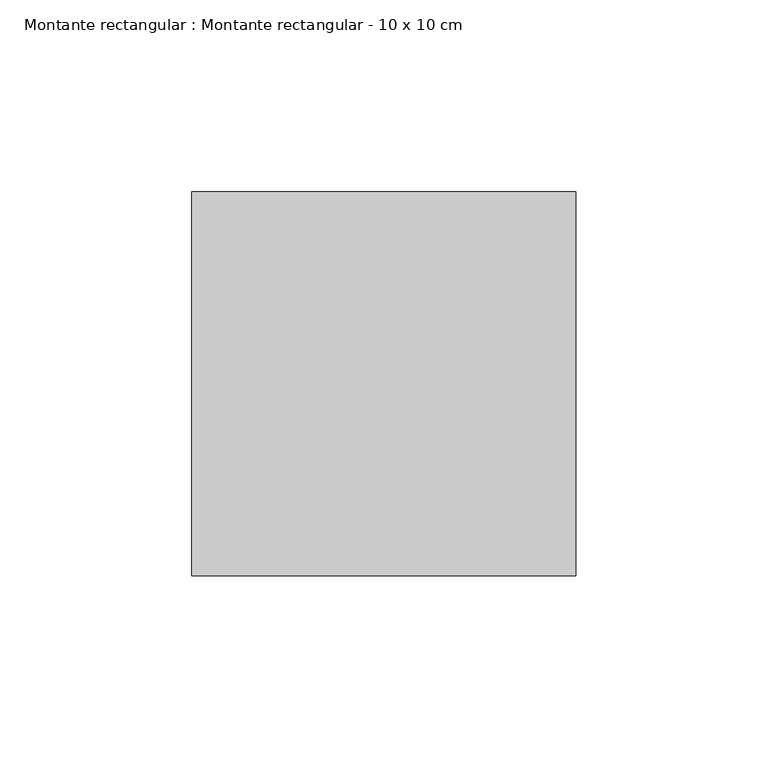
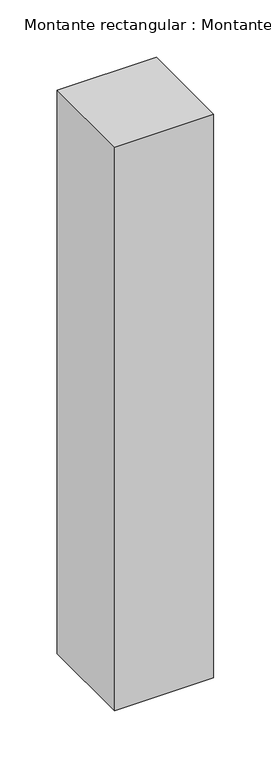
"""IFC4 building model written with IfcOpenShell, lengths in millimetres: member geometry, Montante rectangular : Montante rectangular - 10 x 10 cm."""

from ifc_helpers import new_model, si_unit, frame, origin, place, context, project, spatial, polyline, outline, extrude, source, transform, mapped, element, save


def montante_rectangular_montante_rectangular_10_x_10_cm_55ccf2b4(model_context):
    return source(origin(), model_context, "Body", "SweptSolid", [
        extrude(outline(polyline([(-100.0, -50.0), (-100.0, 50.0), (0.0, 50.0), (0.0, -50.0), (-100.0, -50.0)])), frame((0.0, 0.0, -600.0), z_axis=(0.0, 0.0, 1.0), x_axis=(1.0, 0.0, 0.0)), (0.0, 0.0, 1.0), 600.0),
    ])


if __name__ == "__main__":
    model = new_model("IFC4")
    model_context = context("Model", 3, world=origin())
    ifc_project = project(units=[si_unit("LENGTHUNIT", "METRE", prefix="MILLI")], contexts=[model_context])
    site = spatial("IfcSite", under=ifc_project)
    building = spatial("IfcBuilding", under=site)
    placement = place(None, origin())
    montante_rectangular_montante_rectangular_10_x_10_cm_shape = montante_rectangular_montante_rectangular_10_x_10_cm_55ccf2b4(model_context)
    element("IfcMember", 1, ObjectType="Montante rectangular : Montante rectangular - 10 x 10 cm", at=placement, inside=building, context=model_context, shape_type="MappedRepresentation", body=[
        mapped(montante_rectangular_montante_rectangular_10_x_10_cm_shape, transform((0.0, 0.0, 0.0), x_axis=(1.0, 0.0, 0.0), y_axis=(0.0, 1.0, 0.0), z_axis=(0.0, 0.0, 1.0))),
    ])
    save(model, "model.ifc")
